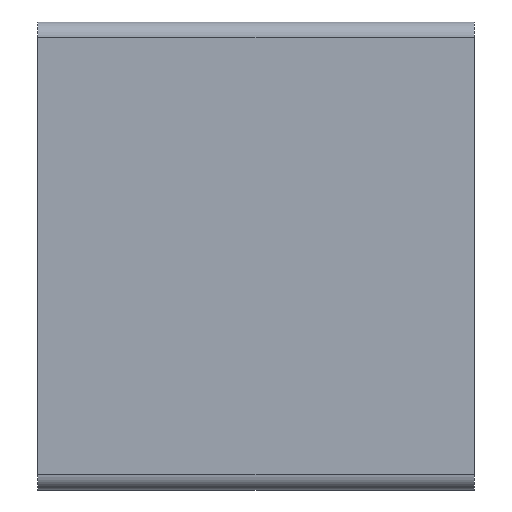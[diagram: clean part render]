
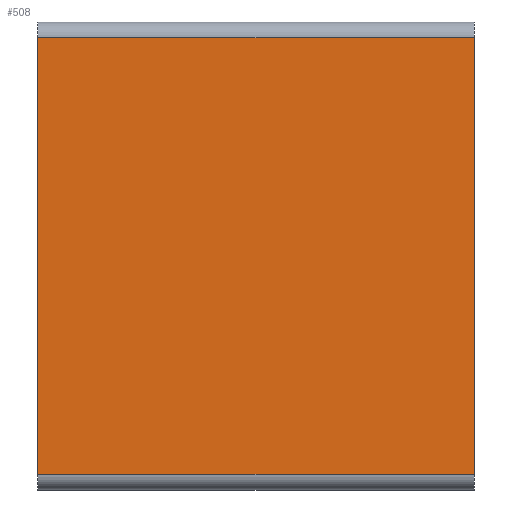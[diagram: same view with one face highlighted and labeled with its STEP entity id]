
A CAD part, top view. The second image highlights one B-rep face of the part: STEP entity #508.
In plain terms, the highlighted planar face has unit normal (0, 0, 1).
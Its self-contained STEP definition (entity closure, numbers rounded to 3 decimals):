
#50 = PLANE('',#51);
#51 = AXIS2_PLACEMENT_3D('',#52,#53,#54);
#52 = CARTESIAN_POINT('',(-55.,-59.,-6.));
#53 = DIRECTION('',(1.,0.,-0.));
#54 = DIRECTION('',(0.,0.,1.));
#193 = VERTEX_POINT('',#194);
#194 = CARTESIAN_POINT('',(-55.,55.,6.));
#209 = CYLINDRICAL_SURFACE('',#210,4.);
#210 = AXIS2_PLACEMENT_3D('',#211,#212,#213);
#211 = CARTESIAN_POINT('',(-55.,55.,2.));
#212 = DIRECTION('',(1.,0.,-0.));
#213 = DIRECTION('',(0.,1.,0.));
#221 = EDGE_CURVE('',#222,#193,#224,.T.);
#222 = VERTEX_POINT('',#223);
#223 = CARTESIAN_POINT('',(-55.,-55.,6.));
#224 = SURFACE_CURVE('',#225,(#229,#236),.PCURVE_S1.);
#225 = LINE('',#226,#227);
#226 = CARTESIAN_POINT('',(-55.,-59.,6.));
#227 = VECTOR('',#228,1.);
#228 = DIRECTION('',(-0.,1.,0.));
#229 = PCURVE('',#50,#230);
#230 = DEFINITIONAL_REPRESENTATION('',(#231),#235);
#231 = LINE('',#232,#233);
#232 = CARTESIAN_POINT('',(12.,0.));
#233 = VECTOR('',#234,1.);
#234 = DIRECTION('',(0.,-1.));
#235 = ( GEOMETRIC_REPRESENTATION_CONTEXT(2) 
PARAMETRIC_REPRESENTATION_CONTEXT() REPRESENTATION_CONTEXT('2D SPACE',''
  ) );
#236 = PCURVE('',#237,#242);
#237 = PLANE('',#238);
#238 = AXIS2_PLACEMENT_3D('',#239,#240,#241);
#239 = CARTESIAN_POINT('',(-55.,-59.,6.));
#240 = DIRECTION('',(0.,0.,1.));
#241 = DIRECTION('',(1.,0.,-0.));
#242 = DEFINITIONAL_REPRESENTATION('',(#243),#247);
#243 = LINE('',#244,#245);
#244 = CARTESIAN_POINT('',(0.,0.));
#245 = VECTOR('',#246,1.);
#246 = DIRECTION('',(0.,1.));
#247 = ( GEOMETRIC_REPRESENTATION_CONTEXT(2) 
PARAMETRIC_REPRESENTATION_CONTEXT() REPRESENTATION_CONTEXT('2D SPACE',''
  ) );
#268 = CYLINDRICAL_SURFACE('',#269,4.);
#269 = AXIS2_PLACEMENT_3D('',#270,#271,#272);
#270 = CARTESIAN_POINT('',(-55.,-55.,2.));
#271 = DIRECTION('',(1.,0.,-0.));
#272 = DIRECTION('',(0.,-1.,0.));
#301 = PLANE('',#302);
#302 = AXIS2_PLACEMENT_3D('',#303,#304,#305);
#303 = CARTESIAN_POINT('',(55.,-59.,-6.));
#304 = DIRECTION('',(1.,0.,-0.));
#305 = DIRECTION('',(0.,0.,1.));
#410 = EDGE_CURVE('',#222,#411,#413,.T.);
#411 = VERTEX_POINT('',#412);
#412 = CARTESIAN_POINT('',(55.,-55.,6.));
#413 = SURFACE_CURVE('',#414,(#418,#425),.PCURVE_S1.);
#414 = LINE('',#415,#416);
#415 = CARTESIAN_POINT('',(-55.,-55.,6.));
#416 = VECTOR('',#417,1.);
#417 = DIRECTION('',(1.,0.,-0.));
#418 = PCURVE('',#268,#419);
#419 = DEFINITIONAL_REPRESENTATION('',(#420),#424);
#420 = LINE('',#421,#422);
#421 = CARTESIAN_POINT('',(-1.571,0.));
#422 = VECTOR('',#423,1.);
#423 = DIRECTION('',(-0.,1.));
#424 = ( GEOMETRIC_REPRESENTATION_CONTEXT(2) 
PARAMETRIC_REPRESENTATION_CONTEXT() REPRESENTATION_CONTEXT('2D SPACE',''
  ) );
#425 = PCURVE('',#237,#426);
#426 = DEFINITIONAL_REPRESENTATION('',(#427),#431);
#427 = LINE('',#428,#429);
#428 = CARTESIAN_POINT('',(0.,4.));
#429 = VECTOR('',#430,1.);
#430 = DIRECTION('',(1.,0.));
#431 = ( GEOMETRIC_REPRESENTATION_CONTEXT(2) 
PARAMETRIC_REPRESENTATION_CONTEXT() REPRESENTATION_CONTEXT('2D SPACE',''
  ) );
#508 = ADVANCED_FACE('',(#509),#237,.T.);
#509 = FACE_BOUND('',#510,.T.);
#510 = EDGE_LOOP('',(#511,#512,#513,#536));
#511 = ORIENTED_EDGE('',*,*,#221,.F.);
#512 = ORIENTED_EDGE('',*,*,#410,.T.);
#513 = ORIENTED_EDGE('',*,*,#514,.T.);
#514 = EDGE_CURVE('',#411,#515,#517,.T.);
#515 = VERTEX_POINT('',#516);
#516 = CARTESIAN_POINT('',(55.,55.,6.));
#517 = SURFACE_CURVE('',#518,(#522,#529),.PCURVE_S1.);
#518 = LINE('',#519,#520);
#519 = CARTESIAN_POINT('',(55.,-59.,6.));
#520 = VECTOR('',#521,1.);
#521 = DIRECTION('',(-0.,1.,0.));
#522 = PCURVE('',#237,#523);
#523 = DEFINITIONAL_REPRESENTATION('',(#524),#528);
#524 = LINE('',#525,#526);
#525 = CARTESIAN_POINT('',(110.,0.));
#526 = VECTOR('',#527,1.);
#527 = DIRECTION('',(0.,1.));
#528 = ( GEOMETRIC_REPRESENTATION_CONTEXT(2) 
PARAMETRIC_REPRESENTATION_CONTEXT() REPRESENTATION_CONTEXT('2D SPACE',''
  ) );
#529 = PCURVE('',#301,#530);
#530 = DEFINITIONAL_REPRESENTATION('',(#531),#535);
#531 = LINE('',#532,#533);
#532 = CARTESIAN_POINT('',(12.,0.));
#533 = VECTOR('',#534,1.);
#534 = DIRECTION('',(0.,-1.));
#535 = ( GEOMETRIC_REPRESENTATION_CONTEXT(2) 
PARAMETRIC_REPRESENTATION_CONTEXT() REPRESENTATION_CONTEXT('2D SPACE',''
  ) );
#536 = ORIENTED_EDGE('',*,*,#537,.F.);
#537 = EDGE_CURVE('',#193,#515,#538,.T.);
#538 = SURFACE_CURVE('',#539,(#543,#550),.PCURVE_S1.);
#539 = LINE('',#540,#541);
#540 = CARTESIAN_POINT('',(-55.,55.,6.));
#541 = VECTOR('',#542,1.);
#542 = DIRECTION('',(1.,0.,-0.));
#543 = PCURVE('',#237,#544);
#544 = DEFINITIONAL_REPRESENTATION('',(#545),#549);
#545 = LINE('',#546,#547);
#546 = CARTESIAN_POINT('',(0.,114.));
#547 = VECTOR('',#548,1.);
#548 = DIRECTION('',(1.,0.));
#549 = ( GEOMETRIC_REPRESENTATION_CONTEXT(2) 
PARAMETRIC_REPRESENTATION_CONTEXT() REPRESENTATION_CONTEXT('2D SPACE',''
  ) );
#550 = PCURVE('',#209,#551);
#551 = DEFINITIONAL_REPRESENTATION('',(#552),#556);
#552 = LINE('',#553,#554);
#553 = CARTESIAN_POINT('',(1.571,0.));
#554 = VECTOR('',#555,1.);
#555 = DIRECTION('',(0.,1.));
#556 = ( GEOMETRIC_REPRESENTATION_CONTEXT(2) 
PARAMETRIC_REPRESENTATION_CONTEXT() REPRESENTATION_CONTEXT('2D SPACE',''
  ) );
